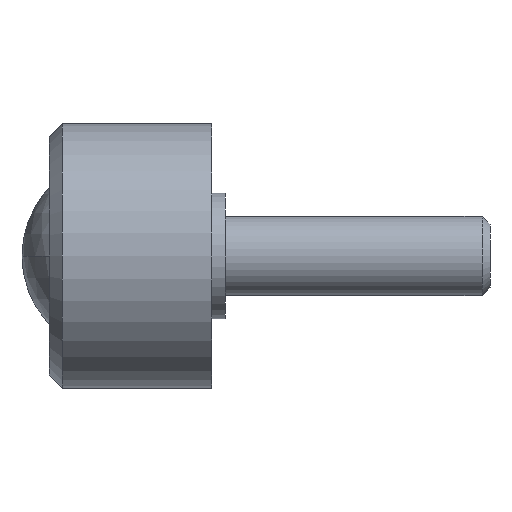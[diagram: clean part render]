
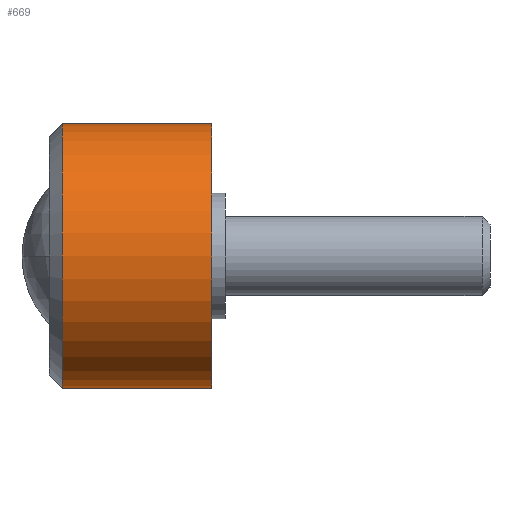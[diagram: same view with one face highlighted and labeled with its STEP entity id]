
A CAD part, left-side view. The second image highlights one B-rep face of the part: STEP entity #669.
In plain terms, the highlighted cylindrical face has radius 20 mm (diameter 40 mm), a partial arc.
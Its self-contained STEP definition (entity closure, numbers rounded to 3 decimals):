
#5 = ORIENTED_EDGE ( 'NONE', *, *, #419, .F. ) ;
#26 = AXIS2_PLACEMENT_3D ( 'NONE', #317, #189, #443 ) ;
#33 = VERTEX_POINT ( 'NONE', #426 ) ;
#37 = EDGE_CURVE ( 'NONE', #591, #689, #156, .T. ) ;
#38 = FACE_OUTER_BOUND ( 'NONE', #578, .T. ) ;
#40 = VECTOR ( 'NONE', #523, 1000. ) ;
#64 = EDGE_CURVE ( 'NONE', #591, #347, #183, .T. ) ;
#101 = CARTESIAN_POINT ( 'NONE',  ( 0., 22.6, 20. ) ) ;
#116 = CARTESIAN_POINT ( 'NONE',  ( 0., 0., 20. ) ) ;
#156 = CIRCLE ( 'NONE', #657, 20. ) ;
#165 = CYLINDRICAL_SURFACE ( 'NONE', #608, 20. ) ;
#183 = LINE ( 'NONE', #116, #260 ) ;
#189 = DIRECTION ( 'NONE',  ( 0., -1., 0. ) ) ;
#190 = DIRECTION ( 'NONE',  ( 0., -1., 0. ) ) ;
#216 = DIRECTION ( 'NONE',  ( 0., -1., 0. ) ) ;
#260 = VECTOR ( 'NONE', #190, 1000. ) ;
#298 = DIRECTION ( 'NONE',  ( 0., -1., 0. ) ) ;
#317 = CARTESIAN_POINT ( 'NONE',  ( 0., 0., 0. ) ) ;
#344 = LINE ( 'NONE', #583, #40 ) ;
#347 = VERTEX_POINT ( 'NONE', #479 ) ;
#396 = ORIENTED_EDGE ( 'NONE', *, *, #64, .F. ) ;
#419 = EDGE_CURVE ( 'NONE', #347, #33, #620, .T. ) ;
#426 = CARTESIAN_POINT ( 'NONE',  ( 0., 0., -20. ) ) ;
#443 = DIRECTION ( 'NONE',  ( 0., 0., -1. ) ) ;
#479 = CARTESIAN_POINT ( 'NONE',  ( 0., 0., 20. ) ) ;
#523 = DIRECTION ( 'NONE',  ( 0., -1., 0. ) ) ;
#526 = CARTESIAN_POINT ( 'NONE',  ( 0., 0., 0. ) ) ;
#578 = EDGE_LOOP ( 'NONE', ( #396, #763, #589, #5 ) ) ;
#583 = CARTESIAN_POINT ( 'NONE',  ( 0., 0., -20. ) ) ;
#587 = DIRECTION ( 'NONE',  ( 0., 0., -1. ) ) ;
#589 = ORIENTED_EDGE ( 'NONE', *, *, #658, .T. ) ;
#591 = VERTEX_POINT ( 'NONE', #101 ) ;
#608 = AXIS2_PLACEMENT_3D ( 'NONE', #526, #216, #587 ) ;
#620 = CIRCLE ( 'NONE', #26, 20. ) ;
#657 = AXIS2_PLACEMENT_3D ( 'NONE', #659, #298, #780 ) ;
#658 = EDGE_CURVE ( 'NONE', #689, #33, #344, .T. ) ;
#659 = CARTESIAN_POINT ( 'NONE',  ( 0., 22.6, 0. ) ) ;
#669 = ADVANCED_FACE ( 'NONE', ( #38 ), #165, .T. ) ;
#689 = VERTEX_POINT ( 'NONE', #704 ) ;
#704 = CARTESIAN_POINT ( 'NONE',  ( 0., 22.6, -20. ) ) ;
#763 = ORIENTED_EDGE ( 'NONE', *, *, #37, .T. ) ;
#780 = DIRECTION ( 'NONE',  ( 0., 0., 1. ) ) ;
